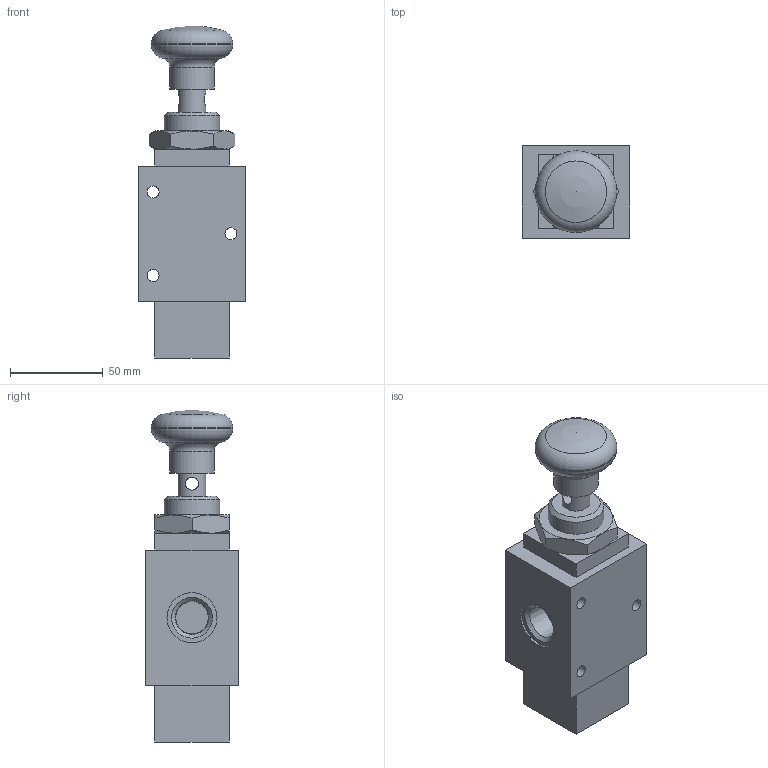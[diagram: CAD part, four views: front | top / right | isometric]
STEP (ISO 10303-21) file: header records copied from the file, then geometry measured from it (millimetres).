
FILE_DESCRIPTION(/* description */ (''),/* implementation_level */ '2;1');
FILE_NAME(/* name */ 'I:\Area Tecnica\Progetti\P118 (OIL&GAS)\DOCUMENTAZIONE\CATALOGO\VALVOLE INOX\LIBRERIA - SS VALV INOX\VALV SS12 NPT\SS1232#####\SS1232C0811#.stp',/* time_stamp */ '2016-06-14T08:10:29+02:00',/* author */ ('Maniean1'),/* organization */ ('Pneumax S.p.A.'),/* preprocessor_version */ 'ST-DEVELOPER v15.2',/* originating_system */ 'Autodesk Inventor 2014',/* authorisation */ '');
FILE_SCHEMA (('AUTOMOTIVE_DESIGN { 1 0 10303 214 3 1 1 }'));
Length unit declared in the file: millimetre
Products named in the file (3): SS1232C0811#-; DADO-; SS1232C0811#
Bounding box: 58 x 50 x 179 mm (x, y, z)
Volume: 308206.1 mm3; surface area: 44645.6 mm2
Topology: 2 solids, 2 shells, 65 faces, 144 edges, 94 vertices
Faces by surface type: plane 33, cylinder 15, cone 13, torus 3, sphere 1
Full cylindrical faces by diameter (mm): 6.5 x3, 7 x1, 14.9 x1, 17.475 x3, 24 x1, 27 x3, 28.376 x1, 30 x1, 44 x1
Entity records: 1668 total; most frequent: CARTESIAN_POINT 342, DIRECTION 270, ORIENTED_EDGE 200, EDGE_LOOP 118, AXIS2_PLACEMENT_3D 114, EDGE_CURVE 100, VERTEX_POINT 82, FACE_BOUND 68
